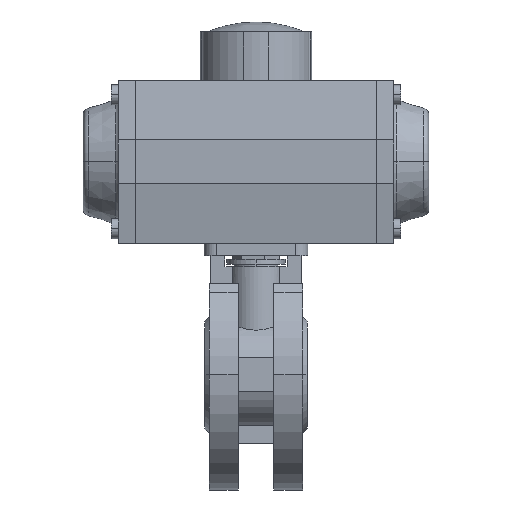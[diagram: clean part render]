
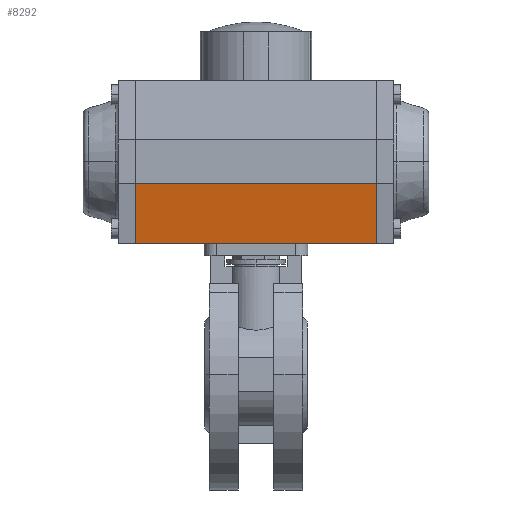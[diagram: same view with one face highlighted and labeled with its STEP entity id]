
A CAD part, top view. The second image highlights one B-rep face of the part: STEP entity #8292.
In plain terms, the highlighted planar face has unit normal (0, -0.161, 0.987) as drawn and (-0.987, -0.161, 0) by its records, which use the part's own axes.
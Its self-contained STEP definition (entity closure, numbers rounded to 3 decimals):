
#380 = LINE ( 'NONE', #388, #12945 ) ;
#386 = LINE ( 'NONE', #394, #12916 ) ;
#388 = CARTESIAN_POINT ( 'NONE',  ( -26., -33.5, -49.5 ) ) ;
#389 = LINE ( 'NONE', #400, #12915 ) ;
#390 = DIRECTION ( 'NONE',  ( 0., 0., 1. ) ) ;
#394 = CARTESIAN_POINT ( 'NONE',  ( -26., -33.5, 49.5 ) ) ;
#395 = DIRECTION ( 'NONE',  ( -0.161, 0.987, 0. ) ) ;
#396 = LINE ( 'NONE', #398, #12914 ) ;
#398 = CARTESIAN_POINT ( 'NONE',  ( -30., -9., -49.5 ) ) ;
#399 = DIRECTION ( 'NONE',  ( 0., 0., 1. ) ) ;
#400 = CARTESIAN_POINT ( 'NONE',  ( -26., -33.5, -49.5 ) ) ;
#402 = DIRECTION ( 'NONE',  ( -0.161, 0.987, 0. ) ) ;
#619 = CARTESIAN_POINT ( 'NONE',  ( -30., -9., -49.5 ) ) ;
#620 = CARTESIAN_POINT ( 'NONE',  ( -30., -9., 49.5 ) ) ;
#622 = CARTESIAN_POINT ( 'NONE',  ( -26., -33.5, 49.5 ) ) ;
#624 = CARTESIAN_POINT ( 'NONE',  ( -26., -33.5, -49.5 ) ) ;
#1405 = CARTESIAN_POINT ( 'NONE',  ( -26., -33.5, -49.5 ) ) ;
#1407 = PLANE ( 'NONE',  #11530 ) ;
#1411 = FACE_OUTER_BOUND ( 'NONE', #5616, .T. ) ;
#1413 = DIRECTION ( 'NONE',  ( 0.987, 0.161, 0. ) ) ;
#1414 = DIRECTION ( 'NONE',  ( -0.161, 0.987, 0. ) ) ;
#5616 = EDGE_LOOP ( 'NONE', ( #6338, #6337, #6336, #6335 ) ) ;
#6044 = VERTEX_POINT ( 'NONE', #619 ) ;
#6046 = VERTEX_POINT ( 'NONE', #620 ) ;
#6049 = VERTEX_POINT ( 'NONE', #622 ) ;
#6053 = VERTEX_POINT ( 'NONE', #624 ) ;
#6335 = ORIENTED_EDGE ( 'NONE', *, *, #8859, .F. ) ;
#6336 = ORIENTED_EDGE ( 'NONE', *, *, #8858, .F. ) ;
#6337 = ORIENTED_EDGE ( 'NONE', *, *, #8857, .T. ) ;
#6338 = ORIENTED_EDGE ( 'NONE', *, *, #8855, .T. ) ;
#8292 = ADVANCED_FACE ( 'NONE', ( #1411 ), #1407, .F. ) ;
#8855 = EDGE_CURVE ( 'NONE', #6053, #6049, #380, .T. ) ;
#8857 = EDGE_CURVE ( 'NONE', #6049, #6046, #386, .T. ) ;
#8858 = EDGE_CURVE ( 'NONE', #6044, #6046, #396, .T. ) ;
#8859 = EDGE_CURVE ( 'NONE', #6053, #6044, #389, .T. ) ;
#11530 = AXIS2_PLACEMENT_3D ( 'NONE', #1405, #1413, #1414 ) ;
#12914 = VECTOR ( 'NONE', #399, 1000. ) ;
#12915 = VECTOR ( 'NONE', #402, 1000. ) ;
#12916 = VECTOR ( 'NONE', #395, 1000. ) ;
#12945 = VECTOR ( 'NONE', #390, 1000. ) ;
